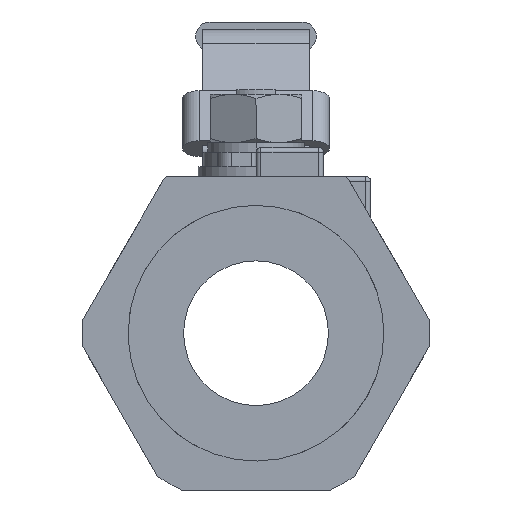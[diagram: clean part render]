
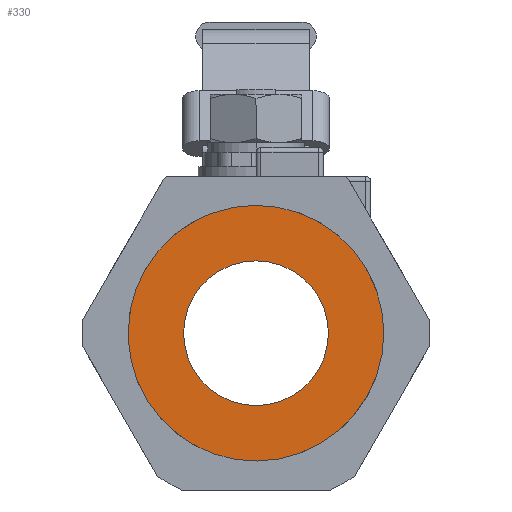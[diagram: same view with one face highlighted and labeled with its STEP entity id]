
A CAD part, left-side view. The second image highlights one B-rep face of the part: STEP entity #330.
In plain terms, the highlighted planar face has unit normal (-1, 0, 0) as drawn and (1, 0, 0) by its records, which use the part's own axes.
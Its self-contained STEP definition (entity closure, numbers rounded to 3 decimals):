
#330=ADVANCED_FACE('',(#1486,#1487),#1485,.T.);
#1485=PLANE('',#2835);
#1486=FACE_OUTER_BOUND('',#2836,.T.);
#1487=FACE_BOUND('',#2837,.T.);
#2832=CARTESIAN_POINT('',(-17.,-55.079,60.95));
#2833=DIRECTION('',(1.,0.,0.));
#2834=DIRECTION('',(0.,0.,-1.));
#2835=AXIS2_PLACEMENT_3D('',#2832,#2833,#2834);
#2836=EDGE_LOOP('',(#3718,#3719,#3720));
#2837=EDGE_LOOP('',(#3721,#3722));
#3718=ORIENTED_EDGE('',*,*,#4407,.T.);
#3719=ORIENTED_EDGE('',*,*,#4408,.T.);
#3720=ORIENTED_EDGE('',*,*,#4409,.T.);
#3721=ORIENTED_EDGE('',*,*,#4410,.F.);
#3722=ORIENTED_EDGE('',*,*,#4411,.F.);
#4407=EDGE_CURVE('',#6490,#6491,#6492,.T.);
#4408=EDGE_CURVE('',#6491,#6498,#6499,.T.);
#4409=EDGE_CURVE('',#6498,#6490,#6505,.T.);
#4410=EDGE_CURVE('',#6511,#6512,#6513,.T.);
#4411=EDGE_CURVE('',#6512,#6511,#6519,.T.);
#6490=VERTEX_POINT('',#8760);
#6491=VERTEX_POINT('',#8761);
#6492=(BOUNDED_CURVE() B_SPLINE_CURVE(2,(#8762,#8763,#8764,#8765,#8766),.UNSPECIFIED.,.F.,.F.) B_SPLINE_CURVE_WITH_KNOTS((3,2,3),(0.,0.5,1.),.UNSPECIFIED.) CURVE() GEOMETRIC_REPRESENTATION_ITEM() RATIONAL_B_SPLINE_CURVE((1.,0.697,1.,0.697,1.)) REPRESENTATION_ITEM('') );
#6498=VERTEX_POINT('',#8767);
#6499=(BOUNDED_CURVE() B_SPLINE_CURVE(2,(#8768,#8769,#8770),.UNSPECIFIED.,.F.,.F.) B_SPLINE_CURVE_WITH_KNOTS((3,3),(0.,1.),.UNSPECIFIED.) CURVE() GEOMETRIC_REPRESENTATION_ITEM() RATIONAL_B_SPLINE_CURVE((1.,0.723,1.)) REPRESENTATION_ITEM('') );
#6505=CIRCLE('',#8774,26.5);
#6511=VERTEX_POINT('',#8775);
#6512=VERTEX_POINT('',#8776);
#6513=CIRCLE('',#8780,15.);
#6519=CIRCLE('',#8784,15.);
#8760=CARTESIAN_POINT('',(-17.,0.,-26.5));
#8761=CARTESIAN_POINT('',(-17.,-1.458,26.46));
#8762=CARTESIAN_POINT('',(-17.,0.,-26.5));
#8763=CARTESIAN_POINT('',(-17.,27.244,-26.5));
#8764=CARTESIAN_POINT('',(-17.,26.49,0.733));
#8765=CARTESIAN_POINT('',(-17.,25.736,27.967));
#8766=CARTESIAN_POINT('',(-17.,-1.458,26.46));
#8767=CARTESIAN_POINT('',(-17.,-26.499,-0.231));
#8768=CARTESIAN_POINT('',(-17.,-1.458,26.46));
#8769=CARTESIAN_POINT('',(-17.,-26.72,25.06));
#8770=CARTESIAN_POINT('',(-17.,-26.499,-0.231));
#8771=CARTESIAN_POINT('',(-17.,0.,0.));
#8772=DIRECTION('',(1.,0.,0.));
#8773=DIRECTION('',(0.,0.,-1.));
#8774=AXIS2_PLACEMENT_3D('',#8771,#8772,#8773);
#8775=CARTESIAN_POINT('',(-17.,0.,15.));
#8776=CARTESIAN_POINT('',(-17.,0.,-15.));
#8777=CARTESIAN_POINT('',(-17.,0.,0.));
#8778=DIRECTION('',(1.,0.,0.));
#8779=DIRECTION('',(0.,0.,-1.));
#8780=AXIS2_PLACEMENT_3D('',#8777,#8778,#8779);
#8781=CARTESIAN_POINT('',(-17.,0.,0.));
#8782=DIRECTION('',(1.,0.,0.));
#8783=DIRECTION('',(0.,0.,-1.));
#8784=AXIS2_PLACEMENT_3D('',#8781,#8782,#8783);
